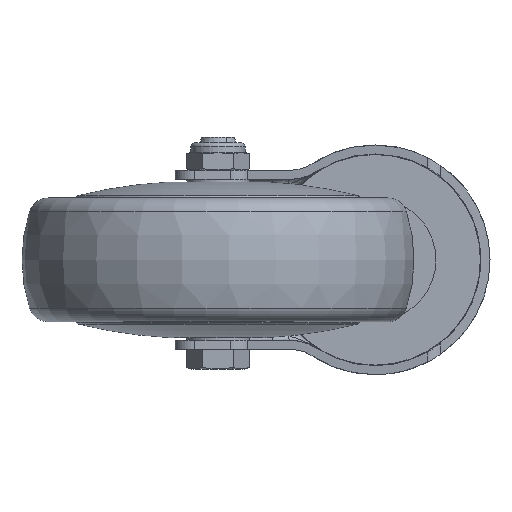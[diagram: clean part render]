
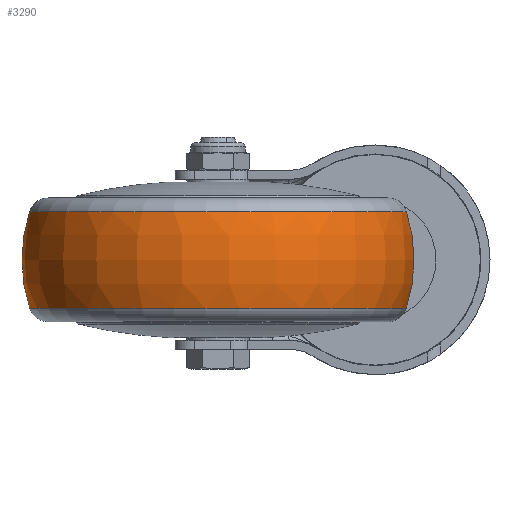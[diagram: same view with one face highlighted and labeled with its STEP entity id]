
A CAD part, front view. The second image highlights one B-rep face of the part: STEP entity #3290.
In plain terms, the highlighted toroidal (fillet/blend) face has major radius 9.765 mm and minor radius 40.235 mm.
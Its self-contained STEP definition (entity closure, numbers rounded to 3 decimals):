
#983 = DIRECTION ( 'NONE',  ( 0., 0., -1. ) ) ;
#1363 = ORIENTED_EDGE ( 'NONE', *, *, #15266, .T. ) ;
#2110 = AXIS2_PLACEMENT_3D ( 'NONE', #5925, #8542, #11073 ) ;
#2201 = AXIS2_PLACEMENT_3D ( 'NONE', #5876, #10711, #8563 ) ;
#2206 = ORIENTED_EDGE ( 'NONE', *, *, #13370, .F. ) ;
#2279 = VERTEX_POINT ( 'NONE', #2696 ) ;
#2339 = DIRECTION ( 'NONE',  ( 0., -1., 0. ) ) ;
#2402 = CIRCLE ( 'NONE', #2110, 40.235 ) ;
#2696 = CARTESIAN_POINT ( 'NONE',  ( -12.275, 0., -48.082 ) ) ;
#3290 = ADVANCED_FACE ( 'NONE', ( #14260 ), #9738, .T. ) ;
#3483 = CIRCLE ( 'NONE', #2201, 48.082 ) ;
#4053 = AXIS2_PLACEMENT_3D ( 'NONE', #14317, #10915, #8297 ) ;
#4801 = CARTESIAN_POINT ( 'NONE',  ( 12.275, 0., -48.082 ) ) ;
#4835 = VERTEX_POINT ( 'NONE', #12766 ) ;
#5367 = VERTEX_POINT ( 'NONE', #4801 ) ;
#5857 = CIRCLE ( 'NONE', #4053, 48.082 ) ;
#5876 = CARTESIAN_POINT ( 'NONE',  ( -12.275, 0., 0. ) ) ;
#5925 = CARTESIAN_POINT ( 'NONE',  ( 0., 0., 9.765 ) ) ;
#5947 = AXIS2_PLACEMENT_3D ( 'NONE', #9424, #10447, #983 ) ;
#8081 = CARTESIAN_POINT ( 'NONE',  ( -12.275, 0., 48.082 ) ) ;
#8197 = EDGE_CURVE ( 'NONE', #2279, #5367, #15440, .T. ) ;
#8297 = DIRECTION ( 'NONE',  ( 0., 0., -1. ) ) ;
#8504 = EDGE_CURVE ( 'NONE', #15477, #4835, #2402, .T. ) ;
#8542 = DIRECTION ( 'NONE',  ( 0., 1., 0. ) ) ;
#8563 = DIRECTION ( 'NONE',  ( 0., 0., -1. ) ) ;
#9086 = AXIS2_PLACEMENT_3D ( 'NONE', #10944, #2339, #9677 ) ;
#9424 = CARTESIAN_POINT ( 'NONE',  ( 0., 0., 0. ) ) ;
#9677 = DIRECTION ( 'NONE',  ( 0., 0., -1. ) ) ;
#9738 = TOROIDAL_SURFACE ( 'NONE', #5947, 9.765, 40.235 ) ;
#10447 = DIRECTION ( 'NONE',  ( 1., 0., 0. ) ) ;
#10577 = ORIENTED_EDGE ( 'NONE', *, *, #8504, .F. ) ;
#10711 = DIRECTION ( 'NONE',  ( 1., 0., 0. ) ) ;
#10915 = DIRECTION ( 'NONE',  ( 1., 0., 0. ) ) ;
#10944 = CARTESIAN_POINT ( 'NONE',  ( 0., 0., -9.765 ) ) ;
#11073 = DIRECTION ( 'NONE',  ( 0., 0., 1. ) ) ;
#12704 = EDGE_LOOP ( 'NONE', ( #10577, #1363, #13712, #2206 ) ) ;
#12766 = CARTESIAN_POINT ( 'NONE',  ( 12.275, 0., 48.082 ) ) ;
#13370 = EDGE_CURVE ( 'NONE', #4835, #5367, #5857, .T. ) ;
#13712 = ORIENTED_EDGE ( 'NONE', *, *, #8197, .T. ) ;
#14260 = FACE_OUTER_BOUND ( 'NONE', #12704, .T. ) ;
#14317 = CARTESIAN_POINT ( 'NONE',  ( 12.275, 0., 0. ) ) ;
#15266 = EDGE_CURVE ( 'NONE', #15477, #2279, #3483, .T. ) ;
#15440 = CIRCLE ( 'NONE', #9086, 40.235 ) ;
#15477 = VERTEX_POINT ( 'NONE', #8081 ) ;
